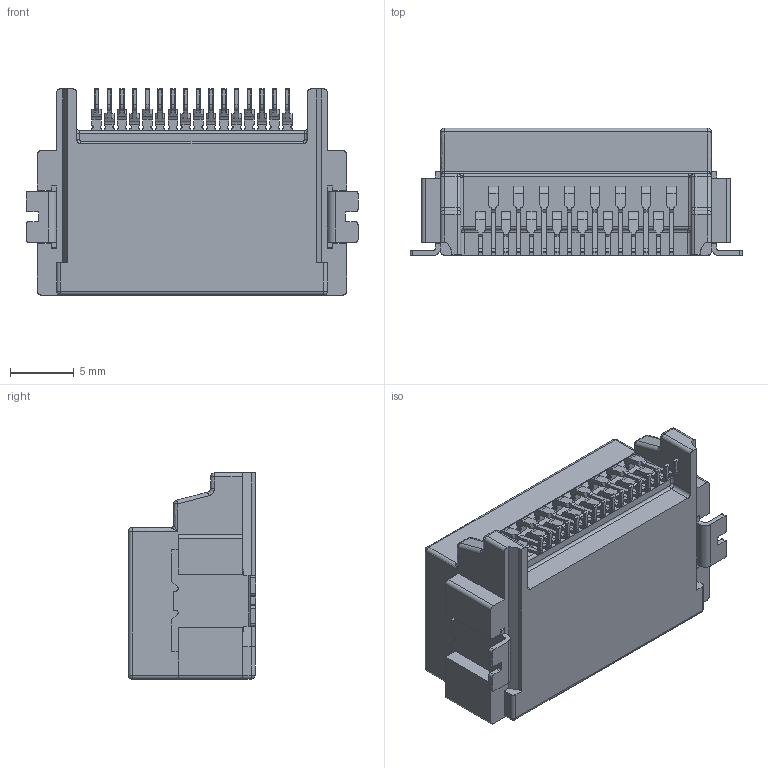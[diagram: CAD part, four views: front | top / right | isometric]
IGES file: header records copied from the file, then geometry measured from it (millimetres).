
Start section: SolidWorks IGES file using analytic representation for surfaces
Global section: file name: C:\Users\08803\Desktop\PDM\ISH全シリーズモデル(STEP)2017.2.6時点\水平\2列\16P\ISHV\ISHV 16P MALE CONNECTOR.IGS; native system: SolidWorks 2017; preprocessor: SolidWorks 2017; author: 08803; date: 180821.142626; units: millimetre
Bounding box: 26.1 x 10.02 x 16.2 mm (x, y, z)
Surface area: 1590.2 mm2 (no closed solid volume)
Topology: 0 solids, 0 shells, 866 faces, 5564 edges, 5550 vertices
Faces by surface type: bspline 586, revolution 280
